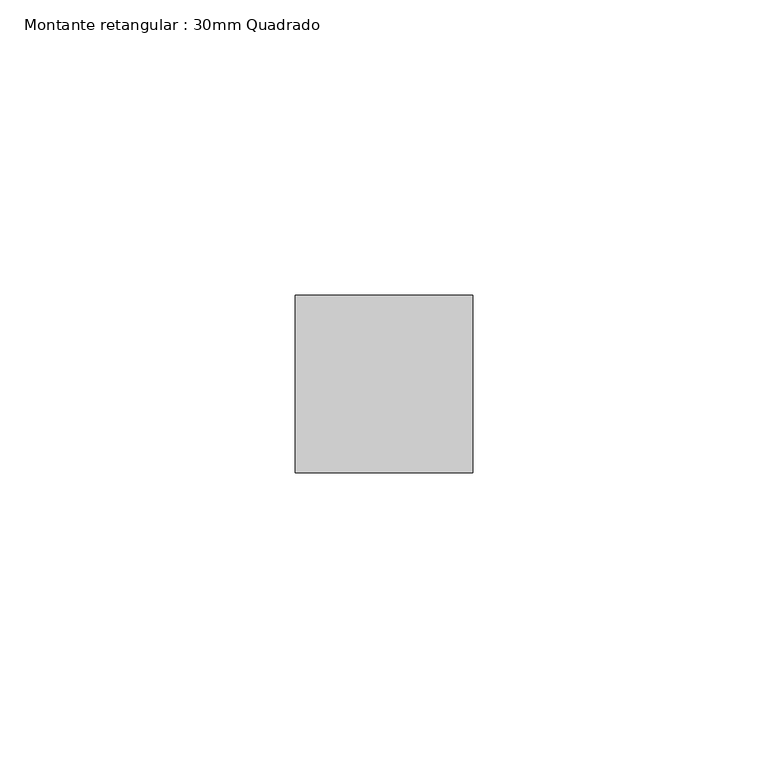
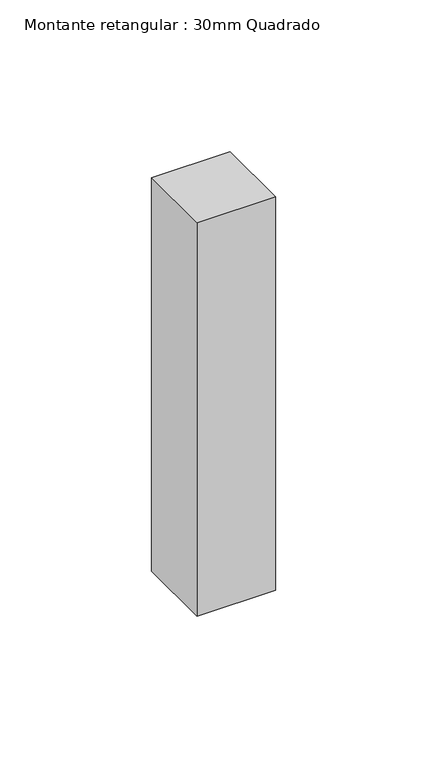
"""IFC4 building model written with IfcOpenShell, lengths in millimetres: member geometry, Montante retangular : 30mm Quadrado."""

from ifc_helpers import new_model, si_unit, frame, origin, place, context, project, spatial, polyline, outline, extrude, source, transform, mapped, element, save


def montante_retangular_30mm_quadrado_caeeb86b(model_context):
    return source(origin(), model_context, "Body", "SweptSolid", [
        extrude(outline(polyline([(15.0, 15.0), (15.0, -15.0), (-15.0, -15.0), (-15.0, 15.0), (15.0, 15.0)])), frame((0.0, 0.0, -158.531459), z_axis=(0.0, 0.0, 1.0), x_axis=(1.0, 0.0, 0.0)), (0.0, 0.0, 1.0), 158.531459),
    ])


if __name__ == "__main__":
    model = new_model("IFC4")
    model_context = context("Model", 3, world=origin())
    ifc_project = project(units=[si_unit("LENGTHUNIT", "METRE", prefix="MILLI")], contexts=[model_context])
    site = spatial("IfcSite", under=ifc_project)
    building = spatial("IfcBuilding", under=site)
    placement = place(None, origin())
    montante_retangular_30mm_quadrado_shape = montante_retangular_30mm_quadrado_caeeb86b(model_context)
    element("IfcMember", 1, ObjectType="Montante retangular : 30mm Quadrado", at=placement, inside=building, context=model_context, shape_type="MappedRepresentation", body=[
        mapped(montante_retangular_30mm_quadrado_shape, transform((0.0, 0.0, 0.0), x_axis=(1.0, 0.0, 0.0), y_axis=(0.0, 1.0, 0.0), z_axis=(0.0, 0.0, 1.0))),
    ])
    save(model, "model.ifc")
